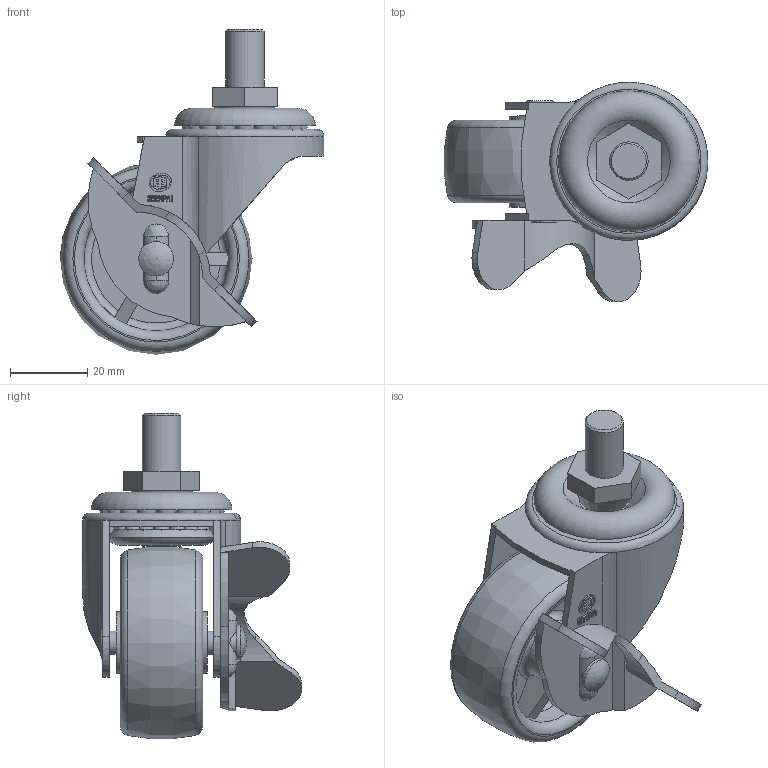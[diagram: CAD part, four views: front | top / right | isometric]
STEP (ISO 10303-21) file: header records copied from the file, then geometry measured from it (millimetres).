
FILE_DESCRIPTION(/* description */ (''),/* implementation_level */ '2;1');
FILE_NAME(/* name */ '10A16_2_F.stp',/* time_stamp */ '2022-10-06T13:45:49+08:00',/* author */ (''),/* organization */ (''),/* preprocessor_version */ 'ST-DEVELOPER v14',/* originating_system */ 'SIEMENS PLM Software NX 8.0',/* authorisation */ '');
FILE_SCHEMA (('AUTOMOTIVE_DESIGN { 1 0 10303 214 3 1 1 1 }'));
Length unit declared in the file: millimetre
Products named in the file (1): 10A16_2_F
Bounding box: 68.38 x 56.79 x 84.37 mm (x, y, z)
Volume: 44693.1 mm3; surface area: 29379.4 mm2
Topology: 1 solids, 1 shells, 417 faces, 1317 edges, 865 vertices
Faces by surface type: plane 241, cylinder 67, torus 45, sphere 33, bspline 22, cone 9
Full cylindrical faces by diameter (mm): 5 x1, 6 x2, 6.1 x1, 6.2 x2, 9 x1, 10 x2, 10.2 x1, 16 x2, 17 x1, 37.4 x2
Entity records: 20954 total; most frequent: CARTESIAN_POINT 10242, ORIENTED_EDGE 2364, DIRECTION 1952, EDGE_CURVE 1182, VERTEX_POINT 809, AXIS2_PLACEMENT_3D 723, EDGE_LOOP 572, LINE 506
